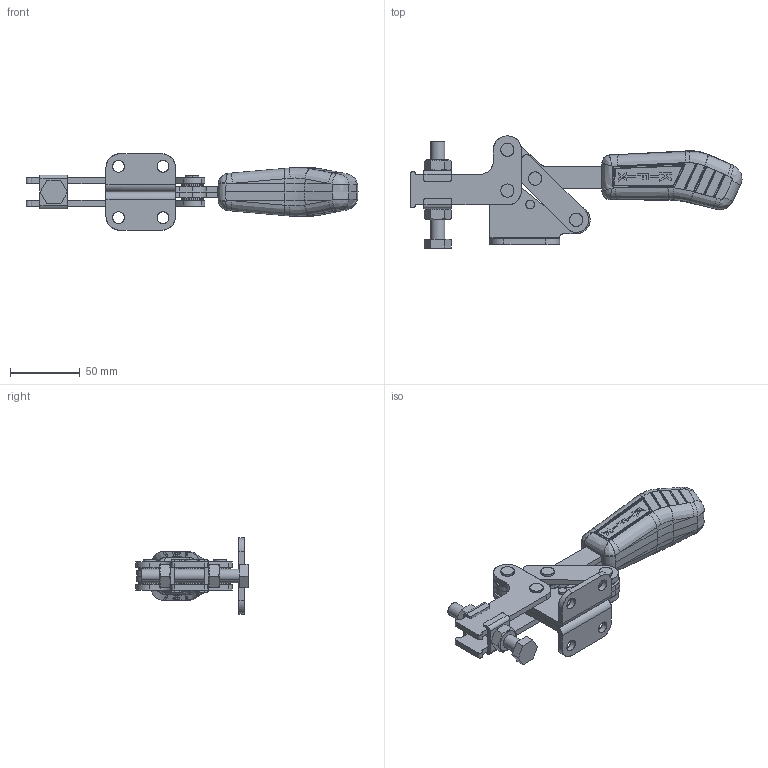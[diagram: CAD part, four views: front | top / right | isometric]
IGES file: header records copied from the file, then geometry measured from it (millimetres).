
Start section: SolidWorks IGES file using analytic representation for surfaces
Global section: file name: C:\Projetos\Grampos\KF-531\KF-531 D\KF-531 D.IGS; native system: SolidWorks 2013; preprocessor: SolidWorks 2013; author: Ricardo; date: 140818.110821; units: millimetre
Bounding box: 238.69 x 80.75 x 55 mm (x, y, z)
Surface area: 77107.8 mm2 (no closed solid volume)
Topology: 0 solids, 0 shells, 809 faces, 9568 edges, 9537 vertices
Faces by surface type: bspline 435, revolution 374
